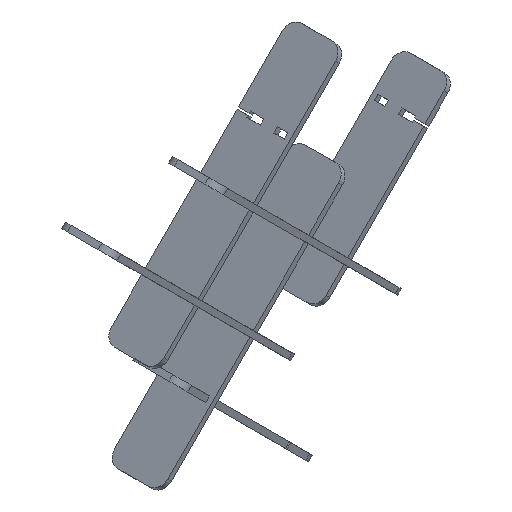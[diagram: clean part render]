
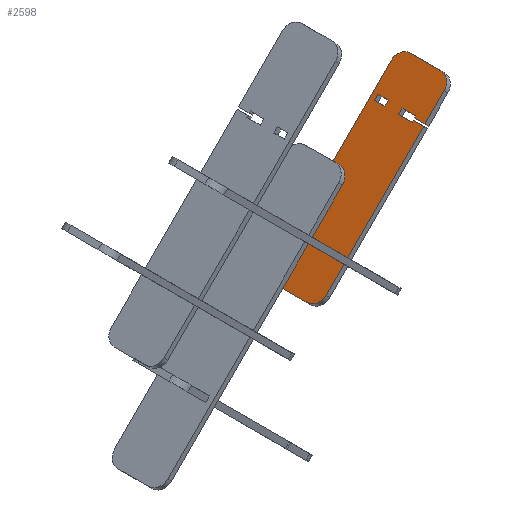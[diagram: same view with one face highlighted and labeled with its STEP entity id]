
A CAD part, isometric view. The second image highlights one B-rep face of the part: STEP entity #2598.
In plain terms, the highlighted planar face has unit normal (-0.707, 0, 0.707) as drawn and (0, 0, 1) by its records, which use the part's own axes.
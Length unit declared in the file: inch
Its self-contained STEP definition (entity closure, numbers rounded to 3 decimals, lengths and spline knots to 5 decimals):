
#61=FACE_BOUND('',#443,.T.);
#62=FACE_BOUND('',#444,.T.);
#176=PLANE('',#2824);
#302=FACE_OUTER_BOUND('',#442,.T.);
#442=EDGE_LOOP('',(#2429,#2430,#2431,#2432,#2433,#2434,#2435,#2436,#2437,
#2438,#2439,#2440,#2441,#2442,#2443,#2444,#2445,#2446,#2447,#2448,#2449,
#2450,#2451,#2452));
#443=EDGE_LOOP('',(#2453,#2454,#2455,#2456));
#444=EDGE_LOOP('',(#2457,#2458,#2459,#2460));
#697=LINE('',#4037,#1033);
#727=LINE('',#4105,#1063);
#731=LINE('',#4115,#1067);
#734=LINE('',#4124,#1070);
#736=LINE('',#4128,#1072);
#738=LINE('',#4132,#1074);
#740=LINE('',#4135,#1076);
#742=LINE('',#4140,#1078);
#744=LINE('',#4144,#1080);
#746=LINE('',#4148,#1082);
#748=LINE('',#4151,#1084);
#750=LINE('',#4156,#1086);
#752=LINE('',#4160,#1088);
#754=LINE('',#4164,#1090);
#756=LINE('',#4167,#1092);
#757=LINE('',#4169,#1093);
#758=LINE('',#4172,#1094);
#760=LINE('',#4176,#1096);
#762=LINE('',#4180,#1098);
#764=LINE('',#4184,#1100);
#766=LINE('',#4188,#1102);
#768=LINE('',#4192,#1104);
#770=LINE('',#4196,#1106);
#772=LINE('',#4200,#1108);
#774=LINE('',#4204,#1110);
#776=LINE('',#4208,#1112);
#778=LINE('',#4212,#1114);
#780=LINE('',#4215,#1116);
#1033=VECTOR('',#3315,0.3937);
#1063=VECTOR('',#3359,0.3937);
#1067=VECTOR('',#3369,0.3937);
#1070=VECTOR('',#3378,0.3937);
#1072=VECTOR('',#3382,0.3937);
#1074=VECTOR('',#3386,0.3937);
#1076=VECTOR('',#3390,0.3937);
#1078=VECTOR('',#3394,0.3937);
#1080=VECTOR('',#3398,0.3937);
#1082=VECTOR('',#3402,0.3937);
#1084=VECTOR('',#3406,0.3937);
#1086=VECTOR('',#3410,0.3937);
#1088=VECTOR('',#3414,0.3937);
#1090=VECTOR('',#3418,0.3937);
#1092=VECTOR('',#3422,0.3937);
#1093=VECTOR('',#3425,0.3937);
#1094=VECTOR('',#3428,0.3937);
#1096=VECTOR('',#3432,0.3937);
#1098=VECTOR('',#3436,0.3937);
#1100=VECTOR('',#3440,0.3937);
#1102=VECTOR('',#3444,0.3937);
#1104=VECTOR('',#3448,0.3937);
#1106=VECTOR('',#3452,0.3937);
#1108=VECTOR('',#3456,0.3937);
#1110=VECTOR('',#3460,0.3937);
#1112=VECTOR('',#3464,0.3937);
#1114=VECTOR('',#3468,0.3937);
#1116=VECTOR('',#3472,0.3937);
#1133=CIRCLE('',#2784,1.);
#1138=CIRCLE('',#2792,1.);
#1139=CIRCLE('',#2795,1.);
#1140=CIRCLE('',#2798,1.);
#1317=VERTEX_POINT('',#4024);
#1318=VERTEX_POINT('',#4025);
#1322=VERTEX_POINT('',#4035);
#1352=VERTEX_POINT('',#4099);
#1353=VERTEX_POINT('',#4103);
#1354=VERTEX_POINT('',#4107);
#1355=VERTEX_POINT('',#4108);
#1356=VERTEX_POINT('',#4113);
#1357=VERTEX_POINT('',#4117);
#1358=VERTEX_POINT('',#4121);
#1359=VERTEX_POINT('',#4123);
#1360=VERTEX_POINT('',#4127);
#1361=VERTEX_POINT('',#4131);
#1362=VERTEX_POINT('',#4137);
#1363=VERTEX_POINT('',#4139);
#1364=VERTEX_POINT('',#4143);
#1365=VERTEX_POINT('',#4147);
#1366=VERTEX_POINT('',#4153);
#1367=VERTEX_POINT('',#4155);
#1368=VERTEX_POINT('',#4159);
#1369=VERTEX_POINT('',#4163);
#1370=VERTEX_POINT('',#4171);
#1371=VERTEX_POINT('',#4175);
#1372=VERTEX_POINT('',#4179);
#1373=VERTEX_POINT('',#4183);
#1374=VERTEX_POINT('',#4187);
#1375=VERTEX_POINT('',#4191);
#1376=VERTEX_POINT('',#4195);
#1377=VERTEX_POINT('',#4199);
#1378=VERTEX_POINT('',#4203);
#1379=VERTEX_POINT('',#4207);
#1380=VERTEX_POINT('',#4211);
#1645=EDGE_CURVE('',#1317,#1318,#1133,.T.);
#1651=EDGE_CURVE('',#1317,#1322,#697,.T.);
#1682=EDGE_CURVE('',#1352,#1322,#1138,.T.);
#1685=EDGE_CURVE('',#1352,#1353,#727,.T.);
#1686=EDGE_CURVE('',#1354,#1355,#1139,.T.);
#1690=EDGE_CURVE('',#1354,#1356,#731,.T.);
#1691=EDGE_CURVE('',#1357,#1353,#1140,.T.);
#1694=EDGE_CURVE('',#1359,#1358,#734,.T.);
#1696=EDGE_CURVE('',#1360,#1359,#736,.T.);
#1698=EDGE_CURVE('',#1361,#1360,#738,.T.);
#1700=EDGE_CURVE('',#1358,#1361,#740,.T.);
#1702=EDGE_CURVE('',#1363,#1362,#742,.T.);
#1704=EDGE_CURVE('',#1364,#1363,#744,.T.);
#1706=EDGE_CURVE('',#1365,#1364,#746,.T.);
#1708=EDGE_CURVE('',#1362,#1365,#748,.T.);
#1710=EDGE_CURVE('',#1367,#1366,#750,.T.);
#1712=EDGE_CURVE('',#1368,#1367,#752,.T.);
#1714=EDGE_CURVE('',#1369,#1368,#754,.T.);
#1716=EDGE_CURVE('',#1356,#1369,#756,.T.);
#1717=EDGE_CURVE('',#1357,#1355,#757,.T.);
#1718=EDGE_CURVE('',#1370,#1318,#758,.T.);
#1720=EDGE_CURVE('',#1371,#1370,#760,.T.);
#1722=EDGE_CURVE('',#1372,#1371,#762,.T.);
#1724=EDGE_CURVE('',#1373,#1372,#764,.T.);
#1726=EDGE_CURVE('',#1374,#1373,#766,.T.);
#1728=EDGE_CURVE('',#1375,#1374,#768,.T.);
#1730=EDGE_CURVE('',#1376,#1375,#770,.T.);
#1732=EDGE_CURVE('',#1377,#1376,#772,.T.);
#1734=EDGE_CURVE('',#1378,#1377,#774,.T.);
#1736=EDGE_CURVE('',#1379,#1378,#776,.T.);
#1738=EDGE_CURVE('',#1380,#1379,#778,.T.);
#1740=EDGE_CURVE('',#1366,#1380,#780,.T.);
#2429=ORIENTED_EDGE('',*,*,#1645,.F.);
#2430=ORIENTED_EDGE('',*,*,#1651,.T.);
#2431=ORIENTED_EDGE('',*,*,#1682,.F.);
#2432=ORIENTED_EDGE('',*,*,#1685,.T.);
#2433=ORIENTED_EDGE('',*,*,#1691,.F.);
#2434=ORIENTED_EDGE('',*,*,#1717,.T.);
#2435=ORIENTED_EDGE('',*,*,#1686,.F.);
#2436=ORIENTED_EDGE('',*,*,#1690,.T.);
#2437=ORIENTED_EDGE('',*,*,#1716,.T.);
#2438=ORIENTED_EDGE('',*,*,#1714,.T.);
#2439=ORIENTED_EDGE('',*,*,#1712,.T.);
#2440=ORIENTED_EDGE('',*,*,#1710,.T.);
#2441=ORIENTED_EDGE('',*,*,#1740,.T.);
#2442=ORIENTED_EDGE('',*,*,#1738,.T.);
#2443=ORIENTED_EDGE('',*,*,#1736,.T.);
#2444=ORIENTED_EDGE('',*,*,#1734,.T.);
#2445=ORIENTED_EDGE('',*,*,#1732,.T.);
#2446=ORIENTED_EDGE('',*,*,#1730,.T.);
#2447=ORIENTED_EDGE('',*,*,#1728,.T.);
#2448=ORIENTED_EDGE('',*,*,#1726,.T.);
#2449=ORIENTED_EDGE('',*,*,#1724,.T.);
#2450=ORIENTED_EDGE('',*,*,#1722,.T.);
#2451=ORIENTED_EDGE('',*,*,#1720,.T.);
#2452=ORIENTED_EDGE('',*,*,#1718,.T.);
#2453=ORIENTED_EDGE('',*,*,#1708,.T.);
#2454=ORIENTED_EDGE('',*,*,#1706,.T.);
#2455=ORIENTED_EDGE('',*,*,#1704,.T.);
#2456=ORIENTED_EDGE('',*,*,#1702,.T.);
#2457=ORIENTED_EDGE('',*,*,#1700,.T.);
#2458=ORIENTED_EDGE('',*,*,#1698,.T.);
#2459=ORIENTED_EDGE('',*,*,#1696,.T.);
#2460=ORIENTED_EDGE('',*,*,#1694,.T.);
#2598=ADVANCED_FACE('',(#302,#61,#62),#176,.T.);
#2784=AXIS2_PLACEMENT_3D('',#4026,#3305,#3306);
#2792=AXIS2_PLACEMENT_3D('',#4100,#3353,#3354);
#2795=AXIS2_PLACEMENT_3D('',#4109,#3362,#3363);
#2798=AXIS2_PLACEMENT_3D('',#4118,#3372,#3373);
#2824=AXIS2_PLACEMENT_3D('',#4216,#3473,#3474);
#3305=DIRECTION('center_axis',(0.,0.,-1.));
#3306=DIRECTION('ref_axis',(0.707,-0.707,0.));
#3315=DIRECTION('',(0.,1.,0.));
#3353=DIRECTION('center_axis',(0.,0.,-1.));
#3354=DIRECTION('ref_axis',(0.707,0.707,0.));
#3359=DIRECTION('',(-1.,0.,0.));
#3362=DIRECTION('center_axis',(0.,0.,-1.));
#3363=DIRECTION('ref_axis',(-0.707,-0.707,0.));
#3369=DIRECTION('',(1.,0.,0.));
#3372=DIRECTION('center_axis',(0.,0.,-1.));
#3373=DIRECTION('ref_axis',(-0.707,0.707,0.));
#3378=DIRECTION('',(0.,-1.,0.));
#3382=DIRECTION('',(1.,0.,0.));
#3386=DIRECTION('',(0.,1.,0.));
#3390=DIRECTION('',(-1.,0.,0.));
#3394=DIRECTION('',(0.,-1.,0.));
#3398=DIRECTION('',(1.,0.,0.));
#3402=DIRECTION('',(0.,1.,0.));
#3406=DIRECTION('',(-1.,0.,0.));
#3410=DIRECTION('',(1.,0.,0.));
#3414=DIRECTION('',(0.,1.,0.));
#3418=DIRECTION('',(-1.,0.,0.));
#3422=DIRECTION('',(0.,1.,0.));
#3425=DIRECTION('',(0.,-1.,0.));
#3428=DIRECTION('',(1.,0.,0.));
#3432=DIRECTION('',(0.,-1.,0.));
#3436=DIRECTION('',(-1.,0.,0.));
#3440=DIRECTION('',(0.,-1.,0.));
#3444=DIRECTION('',(1.,0.,0.));
#3448=DIRECTION('',(0.,1.,0.));
#3452=DIRECTION('',(-1.,0.,0.));
#3456=DIRECTION('',(0.,1.,0.));
#3460=DIRECTION('',(1.,0.,0.));
#3464=DIRECTION('',(0.,-1.,0.));
#3468=DIRECTION('',(-1.,0.,0.));
#3472=DIRECTION('',(0.,-1.,0.));
#3473=DIRECTION('center_axis',(0.,0.,1.));
#3474=DIRECTION('ref_axis',(1.,0.,0.));
#4024=CARTESIAN_POINT('',(17.,1.,0.48));
#4025=CARTESIAN_POINT('',(16.,0.,0.48));
#4026=CARTESIAN_POINT('Origin',(16.,1.,0.48));
#4035=CARTESIAN_POINT('',(17.,3.75,0.48));
#4037=CARTESIAN_POINT('',(17.,0.,0.48));
#4099=CARTESIAN_POINT('',(16.,4.75,0.48));
#4100=CARTESIAN_POINT('Origin',(16.,3.75,0.48));
#4103=CARTESIAN_POINT('',(1.,4.75,0.48));
#4105=CARTESIAN_POINT('',(17.,4.75,0.48));
#4107=CARTESIAN_POINT('',(1.,0.,0.48));
#4108=CARTESIAN_POINT('',(0.,1.,0.48));
#4109=CARTESIAN_POINT('Origin',(1.,1.,0.48));
#4113=CARTESIAN_POINT('',(3.42471,0.,0.48));
#4115=CARTESIAN_POINT('',(0.,0.,0.48));
#4117=CARTESIAN_POINT('',(0.,3.75,0.48));
#4118=CARTESIAN_POINT('Origin',(1.,3.75,0.48));
#4121=CARTESIAN_POINT('',(3.74474,3.4,0.48));
#4123=CARTESIAN_POINT('',(3.74474,4.34,0.48));
#4124=CARTESIAN_POINT('',(3.74474,4.34,0.48));
#4127=CARTESIAN_POINT('',(3.28471,4.34,0.48));
#4128=CARTESIAN_POINT('',(3.28471,4.34,0.48));
#4131=CARTESIAN_POINT('',(3.28471,3.4,0.48));
#4132=CARTESIAN_POINT('',(3.28471,3.4,0.48));
#4135=CARTESIAN_POINT('',(3.74474,3.4,0.48));
#4137=CARTESIAN_POINT('',(13.71529,3.4,0.48));
#4139=CARTESIAN_POINT('',(13.71529,4.34,0.48));
#4140=CARTESIAN_POINT('',(13.71529,4.34,0.48));
#4143=CARTESIAN_POINT('',(13.25526,4.34,0.48));
#4144=CARTESIAN_POINT('',(13.25526,4.34,0.48));
#4147=CARTESIAN_POINT('',(13.25526,3.4,0.48));
#4148=CARTESIAN_POINT('',(13.25526,3.4,0.48));
#4151=CARTESIAN_POINT('',(13.71529,3.4,0.48));
#4153=CARTESIAN_POINT('',(3.74474,2.17002,0.48));
#4155=CARTESIAN_POINT('',(3.28471,2.17002,0.48));
#4156=CARTESIAN_POINT('',(3.28471,2.17002,0.48));
#4159=CARTESIAN_POINT('',(3.28471,0.94,0.48));
#4160=CARTESIAN_POINT('',(3.28471,0.94,0.48));
#4163=CARTESIAN_POINT('',(3.42471,0.94,0.48));
#4164=CARTESIAN_POINT('',(3.42471,0.94,0.48));
#4167=CARTESIAN_POINT('',(3.42471,0.,0.48));
#4169=CARTESIAN_POINT('',(0.,4.75,0.48));
#4171=CARTESIAN_POINT('',(13.57529,0.,0.48));
#4172=CARTESIAN_POINT('',(13.57529,0.,0.48));
#4175=CARTESIAN_POINT('',(13.57529,0.94,0.48));
#4176=CARTESIAN_POINT('',(13.57529,0.94,0.48));
#4179=CARTESIAN_POINT('',(13.71529,0.94,0.48));
#4180=CARTESIAN_POINT('',(13.71529,0.94,0.48));
#4183=CARTESIAN_POINT('',(13.71529,2.17002,0.48));
#4184=CARTESIAN_POINT('',(13.71529,2.17002,0.48));
#4187=CARTESIAN_POINT('',(13.25526,2.17002,0.48));
#4188=CARTESIAN_POINT('',(13.25526,2.17002,0.48));
#4191=CARTESIAN_POINT('',(13.25526,0.94,0.48));
#4192=CARTESIAN_POINT('',(13.25526,0.94,0.48));
#4195=CARTESIAN_POINT('',(13.39526,0.94,0.48));
#4196=CARTESIAN_POINT('',(13.39526,0.94,0.48));
#4199=CARTESIAN_POINT('',(13.39526,0.,0.48));
#4200=CARTESIAN_POINT('',(13.39526,0.,0.48));
#4203=CARTESIAN_POINT('',(3.60474,0.,0.48));
#4204=CARTESIAN_POINT('',(3.60474,0.,0.48));
#4207=CARTESIAN_POINT('',(3.60474,0.94,0.48));
#4208=CARTESIAN_POINT('',(3.60474,0.94,0.48));
#4211=CARTESIAN_POINT('',(3.74474,0.94,0.48));
#4212=CARTESIAN_POINT('',(3.74474,0.94,0.48));
#4215=CARTESIAN_POINT('',(3.74474,2.17002,0.48));
#4216=CARTESIAN_POINT('Origin',(8.5,2.375,0.48));
